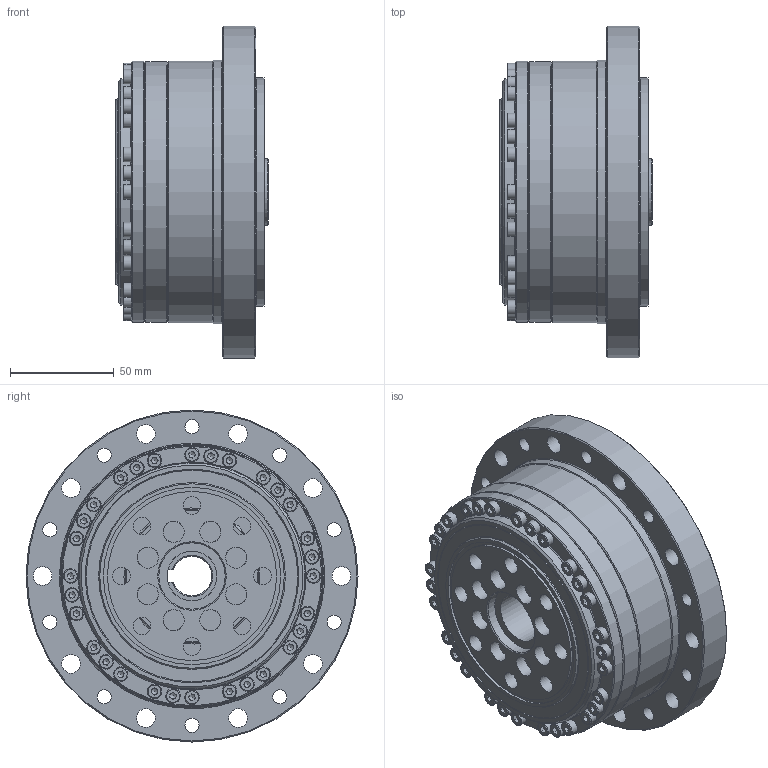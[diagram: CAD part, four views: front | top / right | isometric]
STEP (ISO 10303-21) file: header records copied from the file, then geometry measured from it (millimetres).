
FILE_DESCRIPTION (( 'STEP AP203' ), '1' );
FILE_NAME ('LCSG-40-XXX-C-II-S0.STEP', '2025-01-20T02:09:09', ( '' ), ( '' ), 'SwSTEP 2.0', 'SolidWorks 2023', '' );
FILE_SCHEMA (( 'CONFIG_CONTROL_DESIGN' ));
Length unit declared in the file: metre
Products named in the file (1): LCSG-40-XXX-C-II-S0
Bounding box: 73.5 x 160 x 160 mm (x, y, z)
Volume: 673102.5 mm3; surface area: 312900 mm2
Topology: 76 solids, 76 shells, 1314 faces, 3041 edges, 1902 vertices
Faces by surface type: plane 716, cylinder 333, cone 143, bspline 122
Full cylindrical faces by diameter (mm): 2.5 x2, 3.3 x31, 4 x30, 4.5 x50, 6.8 x10, 7 x30, 8.5 x8, 9 x10, 10.2 x8, 12 x8, 12.5 x16, 17 x8, 24 x2, 28 x2, 30.3 x1, 32 x3, 32.5 x2, 34 x1, 42 x2, 46 x1, 64 x1, 66 x3, 67 x2, 72 x2, 76 x1, 76.928 x2, 78.13 x1, 81.5 x1, 84 x1, 85.5 x1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
Entity records: 47706 total; most frequent: CARTESIAN_POINT 20771, DIRECTION 5666, ORIENTED_EDGE 4620, EDGE_CURVE 2310, AXIS2_PLACEMENT_3D 2279, EDGE_LOOP 2126, VERTEX_POINT 1702, FACE_OUTER_BOUND 1666
